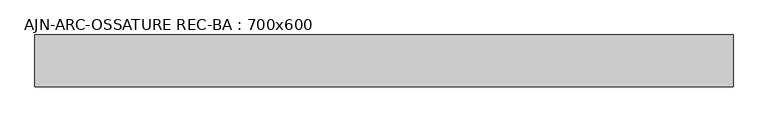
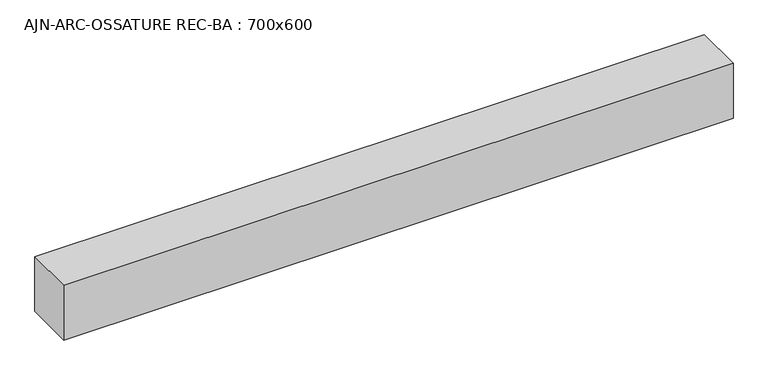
"""IFC4 building model written with IfcOpenShell, lengths in millimetres: beam geometry, AJN-ARC-OSSATURE REC-BA : 700x600."""

from ifc_helpers import new_model, si_unit, frame, origin, place, context, project, spatial, polyline, outline, extrude, source, transform, mapped, element, save


def ajn_arc_ossature_rec_ba_700x600_60e35d56(model_context):
    return source(origin(), model_context, "Body", "SweptSolid", [
        extrude(outline(polyline([(4037.2999994, 300.0), (4037.2999994, -300.0), (-4037.2999994, -300.0), (-4037.2999994, 300.0), (4037.2999994, 300.0)])), frame((0.0, 0.0, -350.0), z_axis=(0.0, 0.0, 1.0), x_axis=(1.0, 0.0, 0.0)), (0.0, 0.0, 1.0), 700.0),
    ])


if __name__ == "__main__":
    model = new_model("IFC4")
    model_context = context("Model", 3, world=origin())
    ifc_project = project(units=[si_unit("LENGTHUNIT", "METRE", prefix="MILLI")], contexts=[model_context])
    site = spatial("IfcSite", under=ifc_project)
    building = spatial("IfcBuilding", under=site)
    placement = place(None, origin())
    ajn_arc_ossature_rec_ba_700x600_shape = ajn_arc_ossature_rec_ba_700x600_60e35d56(model_context)
    element("IfcBeam", 1, ObjectType="AJN-ARC-OSSATURE REC-BA : 700x600", at=placement, inside=building, context=model_context, shape_type="MappedRepresentation", body=[
        mapped(ajn_arc_ossature_rec_ba_700x600_shape, transform((0.0, 0.0, 0.0), x_axis=(1.0, 0.0, 0.0), y_axis=(0.0, 1.0, 0.0), z_axis=(0.0, 0.0, 1.0))),
    ])
    save(model, "model.ifc")
